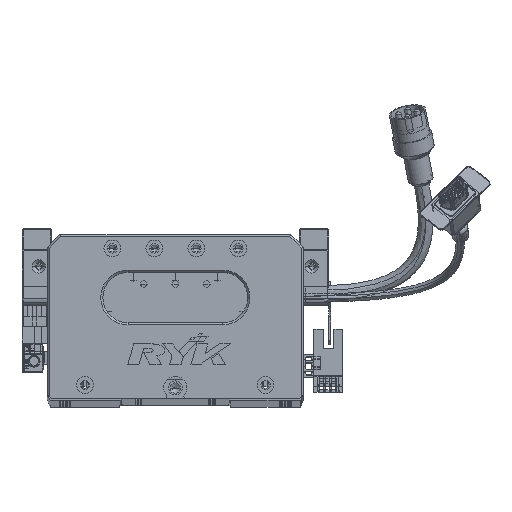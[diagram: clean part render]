
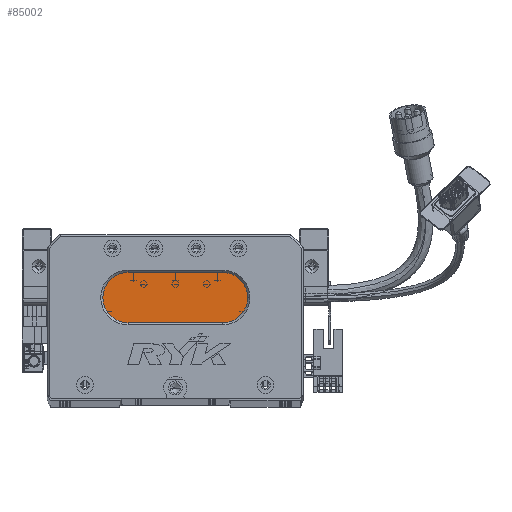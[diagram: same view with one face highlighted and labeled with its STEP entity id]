
A CAD part, top view. The second image highlights one B-rep face of the part: STEP entity #85002.
In plain terms, the highlighted planar face has unit normal (0, 0, 1) as drawn and (0, 0, -1) by its records, which use the part's own axes.
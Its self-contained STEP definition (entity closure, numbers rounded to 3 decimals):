
#2315 = CARTESIAN_POINT ( 'NONE',  ( 38.5, 48., 13. ) ) ;
#4773 = VERTEX_POINT ( 'NONE', #58217 ) ;
#5676 = EDGE_CURVE ( 'NONE', #4773, #27031, #56438, .T. ) ;
#8707 = DIRECTION ( 'NONE',  ( -1., 0., 0. ) ) ;
#10065 = DIRECTION ( 'NONE',  ( 0., 0., -1. ) ) ;
#10542 = PLANE ( 'NONE',  #29207 ) ;
#13933 = DIRECTION ( 'NONE',  ( -1., 0., 0. ) ) ;
#16466 = CARTESIAN_POINT ( 'NONE',  ( 26.5, 48., 13. ) ) ;
#17329 = DIRECTION ( 'NONE',  ( -1., 0., 0. ) ) ;
#17671 = CARTESIAN_POINT ( 'NONE',  ( 38.5, 48., 13. ) ) ;
#19625 = CARTESIAN_POINT ( 'NONE',  ( 83.5, 60., 13. ) ) ;
#20221 = CARTESIAN_POINT ( 'NONE',  ( 38.5, 36., 13. ) ) ;
#20620 = AXIS2_PLACEMENT_3D ( 'NONE', #17671, #63543, #17329 ) ;
#22382 = EDGE_LOOP ( 'NONE', ( #98501, #33792, #29830, #46395, #81311 ) ) ;
#24600 = AXIS2_PLACEMENT_3D ( 'NONE', #60082, #97110, #73878 ) ;
#25706 = EDGE_CURVE ( 'NONE', #27031, #98109, #70793, .T. ) ;
#27031 = VERTEX_POINT ( 'NONE', #19625 ) ;
#29207 = AXIS2_PLACEMENT_3D ( 'NONE', #94768, #57053, #48971 ) ;
#29315 = CIRCLE ( 'NONE', #20620, 12. ) ;
#29830 = ORIENTED_EDGE ( 'NONE', *, *, #71725, .T. ) ;
#33792 = ORIENTED_EDGE ( 'NONE', *, *, #66084, .T. ) ;
#34073 = FACE_OUTER_BOUND ( 'NONE', #22382, .T. ) ;
#34154 = EDGE_CURVE ( 'NONE', #53485, #4773, #46853, .T. ) ;
#36727 = AXIS2_PLACEMENT_3D ( 'NONE', #2315, #10065, #8707 ) ;
#38376 = VECTOR ( 'NONE', #43178, 1000. ) ;
#43178 = DIRECTION ( 'NONE',  ( 1., 0., 0. ) ) ;
#46395 = ORIENTED_EDGE ( 'NONE', *, *, #34154, .T. ) ;
#46853 = CIRCLE ( 'NONE', #36727, 12. ) ;
#48971 = DIRECTION ( 'NONE',  ( -1., 0., 0. ) ) ;
#53485 = VERTEX_POINT ( 'NONE', #16466 ) ;
#53847 = VECTOR ( 'NONE', #13933, 1000. ) ;
#56438 = LINE ( 'NONE', #89000, #38376 ) ;
#57053 = DIRECTION ( 'NONE',  ( 0., 0., -1. ) ) ;
#58217 = CARTESIAN_POINT ( 'NONE',  ( 38.5, 60., 13. ) ) ;
#60082 = CARTESIAN_POINT ( 'NONE',  ( 83.5, 48., 13. ) ) ;
#62757 = CARTESIAN_POINT ( 'NONE',  ( 83.5, 36., 13. ) ) ;
#63543 = DIRECTION ( 'NONE',  ( 0., 0., -1. ) ) ;
#66084 = EDGE_CURVE ( 'NONE', #98109, #69578, #94786, .T. ) ;
#67214 = CARTESIAN_POINT ( 'NONE',  ( 83.5, 36., 13. ) ) ;
#69578 = VERTEX_POINT ( 'NONE', #20221 ) ;
#70793 = CIRCLE ( 'NONE', #24600, 12. ) ;
#71725 = EDGE_CURVE ( 'NONE', #69578, #53485, #29315, .T. ) ;
#73878 = DIRECTION ( 'NONE',  ( -1., 0., 0. ) ) ;
#81311 = ORIENTED_EDGE ( 'NONE', *, *, #5676, .T. ) ;
#85002 = ADVANCED_FACE ( 'NONE', ( #34073 ), #10542, .T. ) ;
#89000 = CARTESIAN_POINT ( 'NONE',  ( 83.5, 60., 13. ) ) ;
#94768 = CARTESIAN_POINT ( 'NONE',  ( 83.5, 48., 13. ) ) ;
#94786 = LINE ( 'NONE', #67214, #53847 ) ;
#97110 = DIRECTION ( 'NONE',  ( 0., 0., -1. ) ) ;
#98109 = VERTEX_POINT ( 'NONE', #62757 ) ;
#98501 = ORIENTED_EDGE ( 'NONE', *, *, #25706, .T. ) ;
